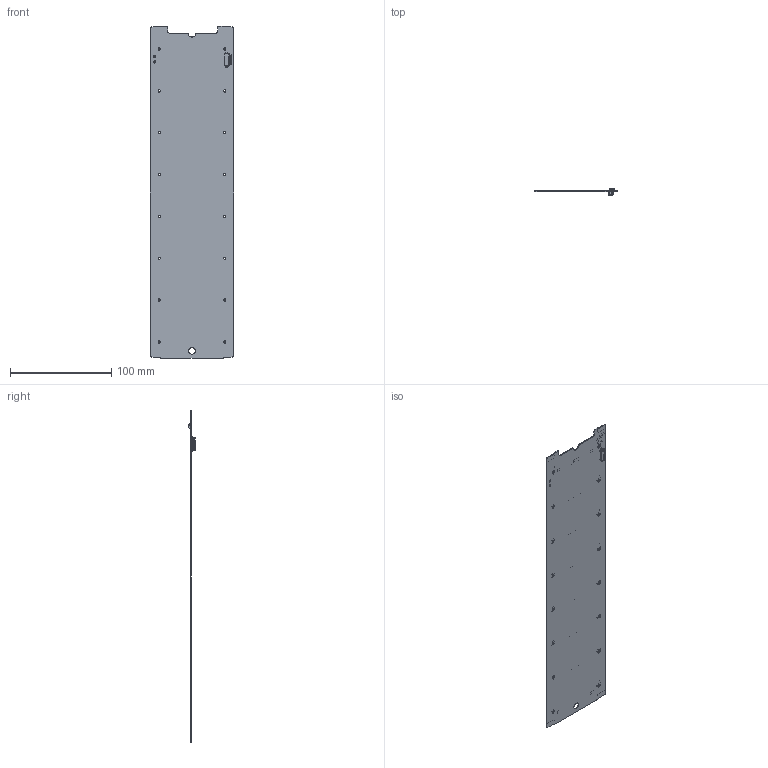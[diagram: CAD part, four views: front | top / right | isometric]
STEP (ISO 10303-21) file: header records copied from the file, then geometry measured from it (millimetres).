
FILE_DESCRIPTION (( 'STEP AP203' ), '1' );
FILE_NAME ('710-00772-C CSK 3U Fixed Side Solar Panel 031.STEP', '2024-06-11T21:47:21', ( '' ), ( '' ), 'SwSTEP 2.0', 'SolidWorks 2020', '' );
FILE_SCHEMA (( 'CONFIG_CONTROL_DESIGN' ));
Length unit declared in the file: inch
Products named in the file (5): Chip, SO-8; 705-00801 CSK 3U Fixed Side Solar Panel 031; Connector, DF13-8P-1.25H; SpectroLab Cell 043575_Sticker; 710-00772-C CSK 3U Fixed Side Solar Panel 031
Assembly tree (10 placements, depth 2):
  710-00772-C CSK 3U Fixed Side Solar Panel 031
    705-00801 CSK 3U Fixed Side Solar Panel 031
    SpectroLab Cell 043575_Sticker  x7
    Connector, DF13-8P-1.25H
    Chip, SO-8
Bounding box: 82.55 x 6.14 x 327.51 mm (x, y, z)
Volume: 24992.4 mm3; surface area: 92290.2 mm2
Topology: 10 solids, 10 shells, 973 faces, 2515 edges, 1644 vertices
Faces by surface type: plane 780, cylinder 189, cone 4
Entity records: 28790 total; most frequent: CARTESIAN_POINT 4917, ORIENTED_EDGE 4814, DIRECTION 4671, EDGE_CURVE 2407, VECTOR 2019, LINE 2019, VERTEX_POINT 1572, AXIS2_PLACEMENT_3D 1326
